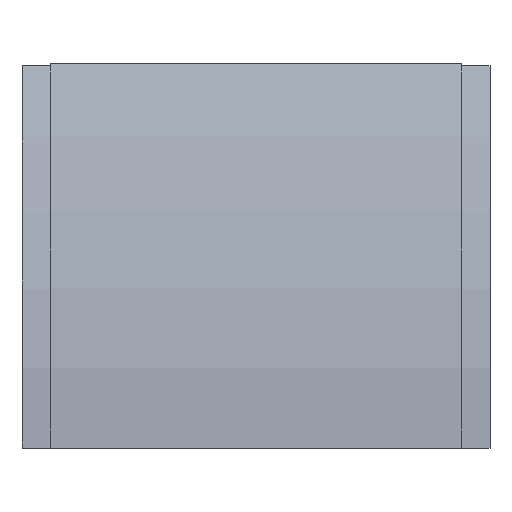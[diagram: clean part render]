
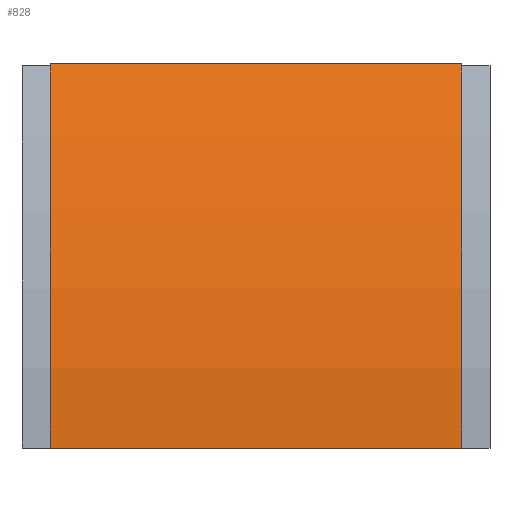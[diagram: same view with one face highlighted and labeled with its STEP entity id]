
A CAD part, front view. The second image highlights one B-rep face of the part: STEP entity #828.
In plain terms, the highlighted cylindrical face has radius 568 mm (diameter 1136 mm), a partial arc.
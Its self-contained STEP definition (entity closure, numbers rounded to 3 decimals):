
#1 = CARTESIAN_POINT ( 'NONE',  ( -152., 8.098, 284. ) ) ;
#22 = CARTESIAN_POINT ( 'NONE',  ( 0., 500., 0. ) ) ;
#25 = DIRECTION ( 'NONE',  ( 0., 0., -1. ) ) ;
#26 = DIRECTION ( 'NONE',  ( 0., 0., -1. ) ) ;
#28 = DIRECTION ( 'NONE',  ( 1., 0., 0. ) ) ;
#29 = DIRECTION ( 'NONE',  ( 1., 0., 0. ) ) ;
#30 = CARTESIAN_POINT ( 'NONE',  ( -152., 500., 0. ) ) ;
#38 = DIRECTION ( 'NONE',  ( 1., 0., 0. ) ) ;
#138 = DIRECTION ( 'NONE',  ( 1., 0., 0. ) ) ;
#140 = CARTESIAN_POINT ( 'NONE',  ( -152., -68., 0. ) ) ;
#142 = DIRECTION ( 'NONE',  ( 0., 0., -1. ) ) ;
#144 = DIRECTION ( 'NONE',  ( 1., 0., 0. ) ) ;
#146 = CARTESIAN_POINT ( 'NONE',  ( 152., 500., 0. ) ) ;
#218 = CYLINDRICAL_SURFACE ( 'NONE', #673, 568. ) ;
#223 = FACE_OUTER_BOUND ( 'NONE', #450, .T. ) ;
#266 = VECTOR ( 'NONE', #138, 1000. ) ;
#268 = VECTOR ( 'NONE', #38, 1000. ) ;
#269 = LINE ( 'NONE', #140, #266 ) ;
#272 = CIRCLE ( 'NONE', #733, 568. ) ;
#275 = LINE ( 'NONE', #1, #268 ) ;
#277 = CIRCLE ( 'NONE', #734, 568. ) ;
#422 = VERTEX_POINT ( 'NONE', #589 ) ;
#450 = EDGE_LOOP ( 'NONE', ( #529, #528, #527, #524 ) ) ;
#481 = VERTEX_POINT ( 'NONE', #708 ) ;
#487 = VERTEX_POINT ( 'NONE', #699 ) ;
#524 = ORIENTED_EDGE ( 'NONE', *, *, #778, .T. ) ;
#527 = ORIENTED_EDGE ( 'NONE', *, *, #773, .T. ) ;
#528 = ORIENTED_EDGE ( 'NONE', *, *, #777, .F. ) ;
#529 = ORIENTED_EDGE ( 'NONE', *, *, #776, .F. ) ;
#564 = VERTEX_POINT ( 'NONE', #684 ) ;
#589 = CARTESIAN_POINT ( 'NONE',  ( -152., -68., 0. ) ) ;
#673 = AXIS2_PLACEMENT_3D ( 'NONE', #22, #29, #26 ) ;
#684 = CARTESIAN_POINT ( 'NONE',  ( -152., 8.098, 284. ) ) ;
#699 = CARTESIAN_POINT ( 'NONE',  ( 152., 8.098, 284. ) ) ;
#708 = CARTESIAN_POINT ( 'NONE',  ( 152., -68., 0. ) ) ;
#733 = AXIS2_PLACEMENT_3D ( 'NONE', #146, #144, #142 ) ;
#734 = AXIS2_PLACEMENT_3D ( 'NONE', #30, #28, #25 ) ;
#773 = EDGE_CURVE ( 'NONE', #564, #422, #277, .T. ) ;
#776 = EDGE_CURVE ( 'NONE', #487, #481, #272, .T. ) ;
#777 = EDGE_CURVE ( 'NONE', #564, #487, #275, .T. ) ;
#778 = EDGE_CURVE ( 'NONE', #422, #481, #269, .T. ) ;
#828 = ADVANCED_FACE ( 'NONE', ( #223 ), #218, .T. ) ;
